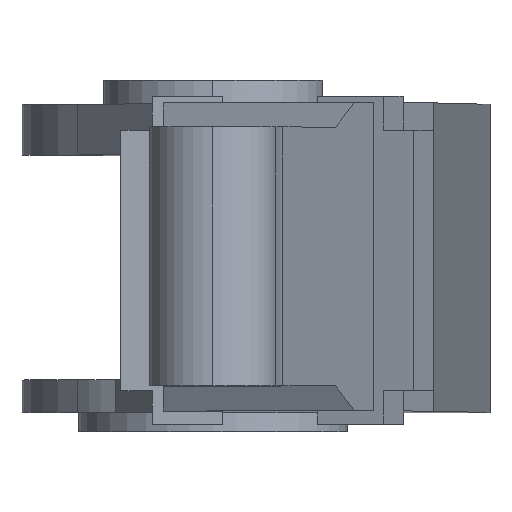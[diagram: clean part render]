
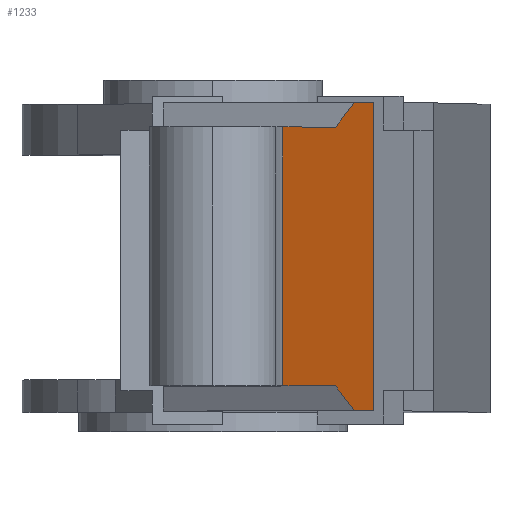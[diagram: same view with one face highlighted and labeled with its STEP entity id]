
A CAD part, top view. The second image highlights one B-rep face of the part: STEP entity #1233.
In plain terms, the highlighted planar face has unit normal (0.936, 0, 0.352).
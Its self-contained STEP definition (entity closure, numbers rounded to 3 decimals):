
#10 = DIRECTION ( 'NONE',  ( 0., -1., 0. ) ) ;
#20 = CARTESIAN_POINT ( 'NONE',  ( 249.551, -106.5, 1557.905 ) ) ;
#38 = LINE ( 'NONE', #1426, #1101 ) ;
#41 = LINE ( 'NONE', #49, #1103 ) ;
#49 = CARTESIAN_POINT ( 'NONE',  ( 356., 94., 1275. ) ) ;
#54 = DIRECTION ( 'NONE',  ( -0.352, 0., 0.936 ) ) ;
#153 = FACE_OUTER_BOUND ( 'NONE', #293, .T. ) ;
#175 = DIRECTION ( 'NONE',  ( 0.936, 0., 0.352 ) ) ;
#187 = DIRECTION ( 'NONE',  ( 0.352, 0., -0.936 ) ) ;
#190 = ORIENTED_EDGE ( 'NONE', *, *, #2633, .T. ) ;
#194 = CARTESIAN_POINT ( 'NONE',  ( 356., -106.5, 1275. ) ) ;
#207 = VECTOR ( 'NONE', #2065, 1000. ) ;
#211 = PLANE ( 'NONE',  #2181 ) ;
#273 = LINE ( 'NONE', #2089, #1471 ) ;
#293 = EDGE_LOOP ( 'NONE', ( #2706, #503, #2724, #487, #190, #1539, #1589, #1860 ) ) ;
#334 = VERTEX_POINT ( 'NONE', #1348 ) ;
#387 = CARTESIAN_POINT ( 'NONE',  ( 249.551, 94., 1557.905 ) ) ;
#478 = VECTOR ( 'NONE', #10, 1000. ) ;
#487 = ORIENTED_EDGE ( 'NONE', *, *, #1920, .T. ) ;
#491 = CARTESIAN_POINT ( 'NONE',  ( 313.949, 111.5, 1386.757 ) ) ;
#503 = ORIENTED_EDGE ( 'NONE', *, *, #1405, .T. ) ;
#548 = LINE ( 'NONE', #20, #478 ) ;
#572 = EDGE_CURVE ( 'NONE', #2490, #658, #1307, .T. ) ;
#584 = CARTESIAN_POINT ( 'NONE',  ( 249.551, -89., 1557.905 ) ) ;
#658 = VERTEX_POINT ( 'NONE', #982 ) ;
#708 = EDGE_CURVE ( 'NONE', #334, #1476, #1871, .T. ) ;
#916 = CARTESIAN_POINT ( 'NONE',  ( 313.949, -106.5, 1386.757 ) ) ;
#925 = VERTEX_POINT ( 'NONE', #584 ) ;
#969 = DIRECTION ( 'NONE',  ( -0.352, 0., 0.936 ) ) ;
#982 = CARTESIAN_POINT ( 'NONE',  ( 286.741, 94., 1459.067 ) ) ;
#983 = DIRECTION ( 'NONE',  ( -0.32, -0.418, 0.85 ) ) ;
#1009 = DIRECTION ( 'NONE',  ( 0., 1., 0. ) ) ;
#1047 = CARTESIAN_POINT ( 'NONE',  ( 313.949, -106.5, 1386.757 ) ) ;
#1101 = VECTOR ( 'NONE', #1185, 1000. ) ;
#1103 = VECTOR ( 'NONE', #54, 1000. ) ;
#1185 = DIRECTION ( 'NONE',  ( -0.352, 0., 0.936 ) ) ;
#1233 = ADVANCED_FACE ( 'NONE', ( #153 ), #211, .T. ) ;
#1286 = LINE ( 'NONE', #2075, #207 ) ;
#1302 = CARTESIAN_POINT ( 'NONE',  ( 300.129, 111.5, 1423.487 ) ) ;
#1307 = LINE ( 'NONE', #1302, #2439 ) ;
#1325 = VECTOR ( 'NONE', #1009, 1000. ) ;
#1348 = CARTESIAN_POINT ( 'NONE',  ( 313.949, -106.5, 1386.757 ) ) ;
#1401 = EDGE_CURVE ( 'NONE', #925, #1768, #273, .T. ) ;
#1405 = EDGE_CURVE ( 'NONE', #1768, #1476, #1286, .T. ) ;
#1418 = CARTESIAN_POINT ( 'NONE',  ( 286.75, -89., 1459.042 ) ) ;
#1426 = CARTESIAN_POINT ( 'NONE',  ( 356., 111.5, 1275. ) ) ;
#1471 = VECTOR ( 'NONE', #2100, 1000. ) ;
#1476 = VERTEX_POINT ( 'NONE', #1784 ) ;
#1539 = ORIENTED_EDGE ( 'NONE', *, *, #572, .T. ) ;
#1589 = ORIENTED_EDGE ( 'NONE', *, *, #2342, .T. ) ;
#1768 = VERTEX_POINT ( 'NONE', #1418 ) ;
#1784 = CARTESIAN_POINT ( 'NONE',  ( 300.138, -106.5, 1423.463 ) ) ;
#1807 = VECTOR ( 'NONE', #969, 1000. ) ;
#1860 = ORIENTED_EDGE ( 'NONE', *, *, #2356, .T. ) ;
#1871 = LINE ( 'NONE', #916, #1807 ) ;
#1920 = EDGE_CURVE ( 'NONE', #334, #2753, #1961, .T. ) ;
#1961 = LINE ( 'NONE', #1047, #1325 ) ;
#2065 = DIRECTION ( 'NONE',  ( 0.32, -0.418, -0.85 ) ) ;
#2075 = CARTESIAN_POINT ( 'NONE',  ( 286.75, -89., 1459.042 ) ) ;
#2089 = CARTESIAN_POINT ( 'NONE',  ( 356., -89., 1275. ) ) ;
#2100 = DIRECTION ( 'NONE',  ( 0.352, 0., -0.936 ) ) ;
#2181 = AXIS2_PLACEMENT_3D ( 'NONE', #194, #175, #187 ) ;
#2296 = CARTESIAN_POINT ( 'NONE',  ( 300.129, 111.5, 1423.487 ) ) ;
#2342 = EDGE_CURVE ( 'NONE', #658, #2761, #41, .T. ) ;
#2356 = EDGE_CURVE ( 'NONE', #2761, #925, #548, .T. ) ;
#2439 = VECTOR ( 'NONE', #983, 1000. ) ;
#2490 = VERTEX_POINT ( 'NONE', #2296 ) ;
#2633 = EDGE_CURVE ( 'NONE', #2753, #2490, #38, .T. ) ;
#2706 = ORIENTED_EDGE ( 'NONE', *, *, #1401, .T. ) ;
#2724 = ORIENTED_EDGE ( 'NONE', *, *, #708, .F. ) ;
#2753 = VERTEX_POINT ( 'NONE', #491 ) ;
#2761 = VERTEX_POINT ( 'NONE', #387 ) ;
